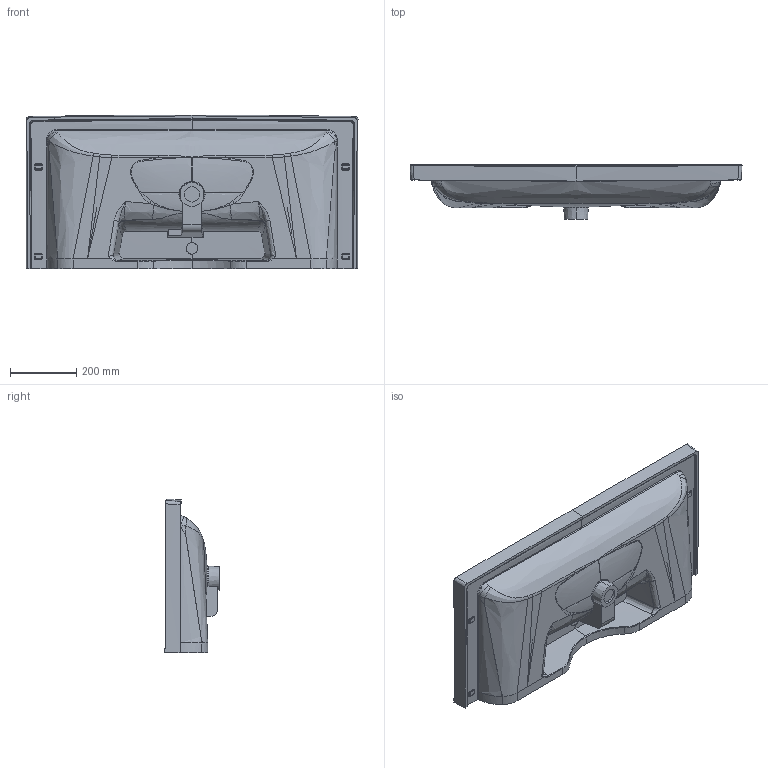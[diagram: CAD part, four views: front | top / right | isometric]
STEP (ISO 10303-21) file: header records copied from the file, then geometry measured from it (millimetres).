
FILE_DESCRIPTION (( 'STEP AP203' ), '1' );
FILE_NAME ('ob100.STEP', '2023-02-23T11:43:36', ( '' ), ( '' ), 'SwSTEP 2.0', 'SolidWorks 2021', '' );
FILE_SCHEMA (( 'CONFIG_CONTROL_DESIGN' ));
Products named in the file (1): ob100
Bounding box: 1002.85 x 165 x 464.47 mm (x, y, z)
Volume: 16778875.2 mm3; surface area: 1753079 mm2
Topology: 4 solids, 7 shells, 347 faces, 898 edges, 554 vertices
Faces by surface type: bspline 296, plane 27, cylinder 19, cone 4, torus 1
Entity records: 111173 total; most frequent: CARTESIAN_POINT 105208, ORIENTED_EDGE 1768, EDGE_CURVE 884, B_SPLINE_CURVE_WITH_KNOTS 713, VERTEX_POINT 554, DIRECTION 391, EDGE_LOOP 352, ADVANCED_FACE 347
